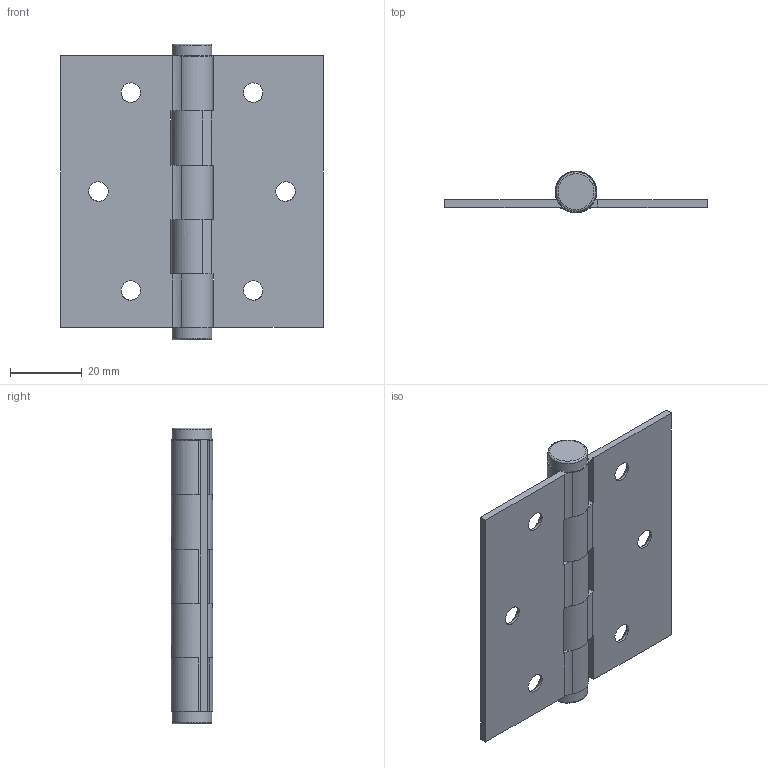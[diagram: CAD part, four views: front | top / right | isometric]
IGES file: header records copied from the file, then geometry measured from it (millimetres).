
Global section: file name: DR_HD7573-20; native system: Autodesk Inventor 2015; preprocessor: unknown; author: user; date: 20170816.154944; units: millimetre
Bounding box: 73 x 11.49 x 82.25 mm (x, y, z)
Volume: 17406.6 mm3; surface area: 17512.8 mm2
Topology: 3 solids, 3 shells, 75 faces, 215 edges, 148 vertices
Faces by surface type: bspline 75
